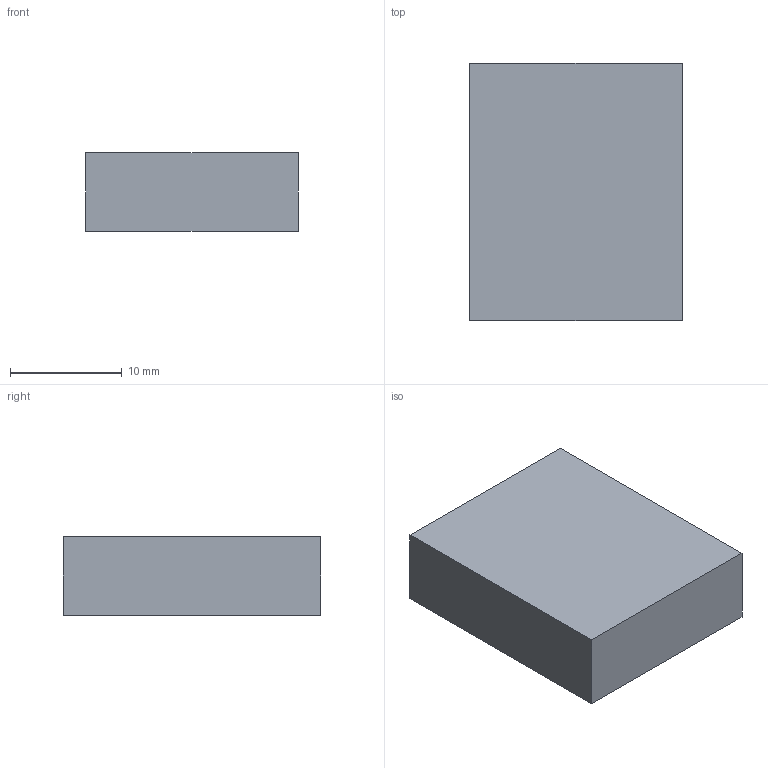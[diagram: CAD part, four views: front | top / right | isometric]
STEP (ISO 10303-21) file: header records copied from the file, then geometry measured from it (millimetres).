
FILE_DESCRIPTION(('Open CASCADE Model'),'2;1');
FILE_NAME('Open CASCADE Shape Model','2026-10-17T17:22:14',('Author'),( 'Open CASCADE'),'Open CASCADE STEP processor 7.9','Open CASCADE 7.9' ,'Unknown');
FILE_SCHEMA(('AUTOMOTIVE_DESIGN { 1 0 10303 214 1 1 1 1 }'));
Length unit declared in the file: millimetre
Products named in the file (1): Open CASCADE STEP translator 7.9 24
Bounding box: 19 x 23 x 7 mm (x, y, z)
Volume: 3059 mm3; surface area: 1462 mm2
Topology: 1 solids, 1 shells, 6 faces, 12 edges, 8 vertices
Faces by surface type: plane 6
Entity records: 322 total; most frequent: CARTESIAN_POINT 51, DIRECTION 50, LINE 36, VECTOR 36, ORIENTED_EDGE 24, PCURVE 24, DEFINITIONAL_REPRESENTATION 24, EDGE_CURVE 12
